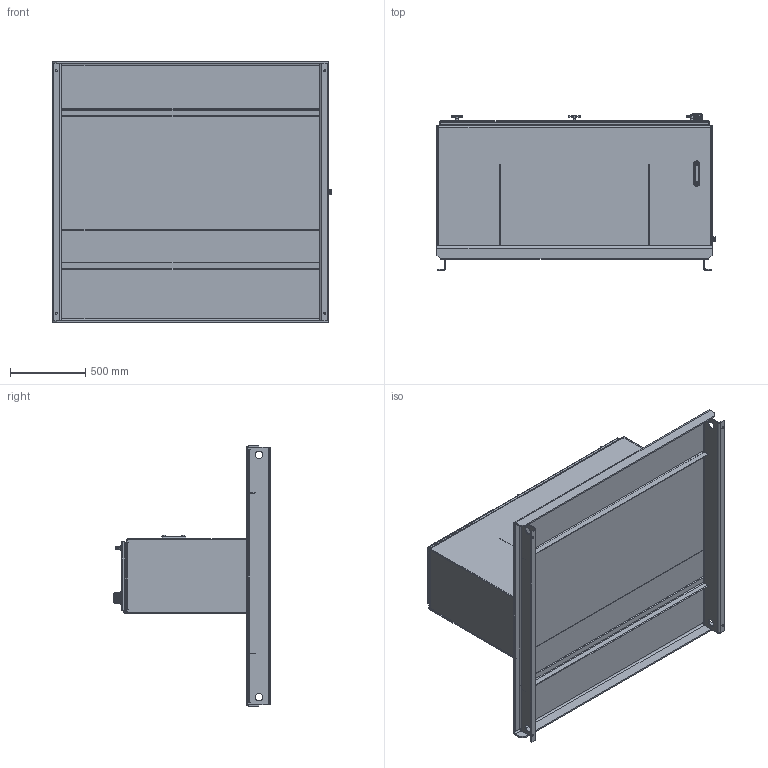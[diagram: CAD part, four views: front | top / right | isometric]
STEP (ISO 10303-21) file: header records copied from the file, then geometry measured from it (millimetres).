
FILE_DESCRIPTION (( 'STEP AP203' ), '1' );
FILE_NAME ('RTP120-HT.STEP', '2015-01-07T19:16:43', ( '' ), ( '' ), 'SwSTEP 2.0', 'SolidWorks 2014', '' );
FILE_SCHEMA (( 'CONFIG_CONTROL_DESIGN' ));
Products named in the file (1): RTP120-HT
Bounding box: 1847.85 x 1042.22 x 1730.38 mm (x, y, z)
Volume: 61687234.7 mm3; surface area: 20354632.1 mm2
Topology: 63 solids, 241 shells, 3196 faces, 7032 edges, 4271 vertices
Faces by surface type: plane 1342, cylinder 1160, torus 407, bspline 136, cone 96, sphere 55
Entity records: 95773 total; most frequent: CARTESIAN_POINT 24923, DIRECTION 15640, ORIENTED_EDGE 13944, EDGE_CURVE 6972, AXIS2_PLACEMENT_3D 6076, VERTEX_POINT 4253, VECTOR 3488, LINE 3488
